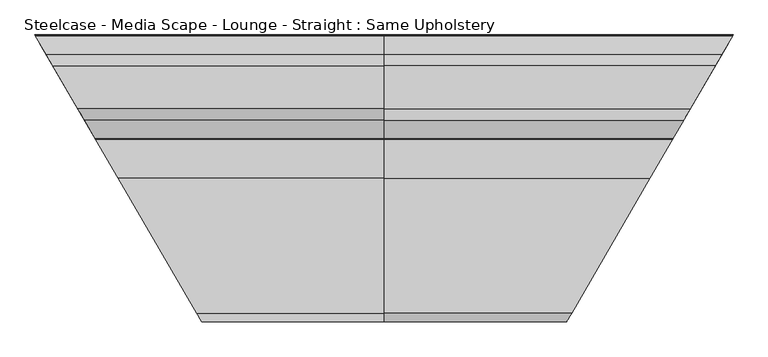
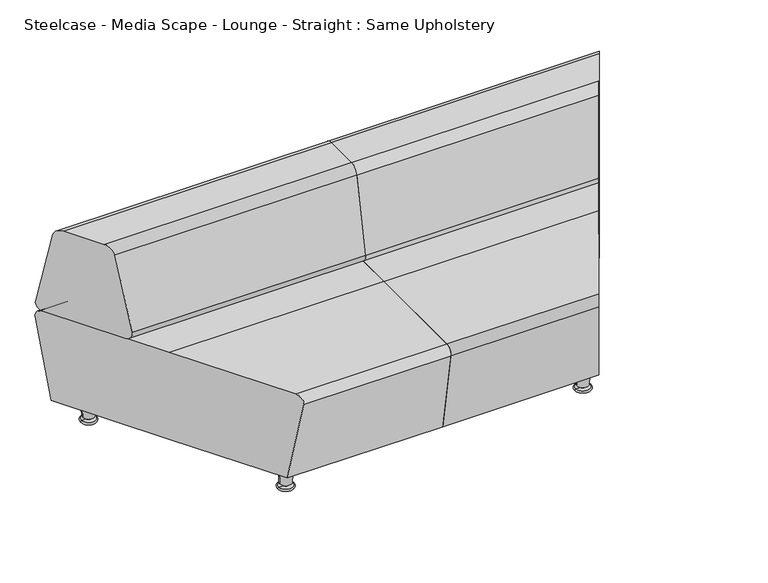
"""IFC4 building model written with IfcOpenShell, lengths in millimetres: furniture geometry, Steelcase - Media Scape - Lounge - Straight : Same Upholstery."""

from ifc_helpers import new_model, si_unit, point, frame, origin, place, context, project, spatial, polyline, circle_curve, ellipse_curve, trimmed, source, transform, mapped, element, save
from ifc_brep_helpers import plane_surface, cylinder_surface, revolved_surface, advanced_brep


def steelcase_media_scape_lounge_straight_same_upholstery_78731be7(model_context):
    return source(origin(), model_context, "Body", "AdvancedBrep", [
        advanced_brep(
        [(528.9638527, 744.618392, 735.1171206), (528.9638527, 619.0683436, 735.1171206), (528.9638527, 585.640659, 707.6422134), (528.9638527, 531.7822003, 434.7626426), (528.9638527, 556.7014693, 404.4443065), (528.9638527, 806.9852663, 404.4443065), (528.9638527, 831.9045354, 434.7626426), (528.9638527, 778.0460766, 707.6422134), (-452.3869175, 778.0460766, 707.6422134), (-432.9507329, 744.618392, 735.1171206), (-483.7023664, 831.9045354, 434.7626426), (-469.2133128, 806.9852663, 404.4443065), (-323.688364, 556.7014693, 404.4443065), (-309.1993104, 531.7822003, 434.7626426), (-340.5147593, 585.640659, 707.6422134), (-359.950944, 619.0683436, 735.1171206)],
        [
            (0, 1),
            (1, 2, circle_curve(frame((528.9638527, 619.0683436, 701.0445646), z_axis=(1.0, 0.0, 0.0), x_axis=(0.0, -1.0, 0.0)), 34.0725559)),
            (2, 3),
            (3, 4, circle_curve(frame((528.9638527, 556.7014693, 429.8443065), z_axis=(1.0, 0.0, 0.0), x_axis=(0.0, -1.0, 0.0)), 25.4)),
            (4, 5),
            (5, 6, circle_curve(frame((528.9638527, 806.9852663, 429.8443065), z_axis=(1.0, 0.0, 0.0), x_axis=(0.0, 1.0, 0.0)), 25.4)),
            (6, 7),
            (7, 0, circle_curve(frame((528.9638527, 744.618392, 701.0445646), z_axis=(1.0, 0.0, 0.0), x_axis=(0.0, 1.0, 0.0)), 34.0725559)),
            (7, 8),
            (8, 9, ellipse_curve(frame((-432.9507329, 744.618392, 701.0445646), z_axis=(0.8644905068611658, 0.5026491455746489, 0.0), x_axis=(-0.5026491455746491, 0.8644905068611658, 0.0)), 39.413453, 34.0725559)),
            (9, 0),
            (6, 10),
            (10, 8),
            (5, 11),
            (11, 10, ellipse_curve(frame((-469.2133128, 806.9852663, 429.8443065), z_axis=(0.8644905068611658, 0.5026491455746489, 0.0), x_axis=(-0.5026491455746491, 0.8644905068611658, 0.0)), 29.3814678, 25.4)),
            (4, 12),
            (12, 11),
            (3, 13),
            (13, 12, ellipse_curve(frame((-323.688364, 556.7014693, 429.8443065), z_axis=(0.8644905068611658, 0.5026491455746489, 0.0), x_axis=(-0.502649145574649, 0.8644905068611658, 0.0)), 29.3814678, 25.4)),
            (2, 14),
            (14, 13),
            (1, 15),
            (15, 14, ellipse_curve(frame((-359.950944, 619.0683436, 701.0445646), z_axis=(0.8644905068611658, 0.5026491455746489, 0.0), x_axis=(-0.502649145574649, 0.8644905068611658, 0.0)), 39.413453, 34.0725559)),
            (9, 15),
        ],
        [
            plane_surface(frame((528.9638527, 778.690948, 701.0445646), z_axis=(1.0, 0.0, 0.0), x_axis=(0.0, 0.0, 1.0))),
            cylinder_surface(frame((528.9638527, 744.618392, 701.0445646), z_axis=(-1.0, 0.0, 0.0), x_axis=(0.0, 1.0, 0.0)), 34.0725559),
            plane_surface(frame((-497.7585178, 778.0460766, 707.6422134), z_axis=(0.0, 0.9810735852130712, 0.19363527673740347), x_axis=(1.0, 0.0, 0.0))),
            cylinder_surface(frame((528.9638527, 806.9852663, 429.8443065), z_axis=(-1.0, 0.0, 0.0), x_axis=(0.0, 1.0, 0.0)), 25.4),
            plane_surface(frame((-497.7585178, 806.9852663, 404.4443065), z_axis=(0.0, 0.0, -1.0), x_axis=(1.0, 0.0, 0.0))),
            cylinder_surface(frame((528.9638527, 556.7014693, 429.8443065), z_axis=(-1.0, 0.0, 0.0), x_axis=(0.0, -1.0, 0.0)), 25.4),
            plane_surface(frame((-497.7585178, 531.7822003, 434.7626426), z_axis=(0.0, -0.9810735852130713, 0.1936352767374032), x_axis=(1.0, 0.0, 0.0))),
            cylinder_surface(frame((528.9638527, 619.0683436, 701.0445646), z_axis=(-1.0, 0.0, 0.0), x_axis=(0.0, -1.0, 0.0)), 34.0725559),
            plane_surface(frame((-497.7585178, 619.0683436, 735.1171206), z_axis=(0.0, 0.0, 1.0), x_axis=(1.0, 0.0, 0.0))),
            plane_surface(frame((22.6450752, -38.9465548, 744.9721396), z_axis=(-0.8644905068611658, -0.5026491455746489, 0.0), x_axis=(0.0, 0.0, -1.0))),
        ],
        [
            (0, [[1, 2, 3, 4, 5, 6, 7, 8]]),
            (1, [[-8, 9, 10, 11]]),
            (2, [[-7, 12, 13, -9]]),
            (3, [[-6, 14, 15, -12]]),
            (4, [[-5, 16, 17, -14]]),
            (5, [[-4, 18, 19, -16]]),
            (6, [[-3, 20, 21, -18]]),
            (7, [[-2, 22, 23, -20]]),
            (8, [[-1, -11, 24, -22]]),
            (9, [[-10, -13, -15, -17, -19, -21, -23, -24]]),
        ],
    ),
        advanced_brep(
        [(528.9638527, 416.9525328, 404.4443065), (528.9638527, 25.4465658, 404.4443065), (528.9638527, 0.4050887, 374.7917281), (528.9638527, 51.3770305, 74.6414242), (528.9638527, 416.9525328, 74.6414242), (528.9638527, 782.5280351, 74.6414242), (528.9638527, 833.4999769, 374.7917281), (528.9638527, 808.4584998, 404.4443065), (-242.4327771, 416.9525328, 404.4443065), (-14.7956449, 25.4465658, 404.4443065), (-0.2355347, 0.4050887, 374.7917281), (-29.8726479, 51.3770305, 74.6414242), (-242.4327771, 416.9525328, 74.6414242), (-454.9929064, 782.5280351, 74.6414242), (-484.6300196, 833.4999769, 374.7917281), (-470.0699093, 808.4584998, 404.4443065)],
        [
            (0, 1),
            (1, 2, circle_curve(frame((528.9638527, 25.4465658, 379.0443065), z_axis=(1.0, 0.0, 0.0), x_axis=(0.0, -1.0, 0.0)), 25.4)),
            (2, 3),
            (3, 4),
            (4, 5),
            (5, 6),
            (6, 7, circle_curve(frame((528.9638527, 808.4584998, 379.0443065), z_axis=(1.0, 0.0, 0.0), x_axis=(0.0, 1.0, 0.0)), 25.4)),
            (7, 0),
            (0, 8),
            (8, 9),
            (9, 1),
            (9, 10, ellipse_curve(frame((-14.7956449, 25.4465658, 379.0443065), z_axis=(0.8644905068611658, 0.5026491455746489, 0.0), x_axis=(0.502649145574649, -0.8644905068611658, 0.0)), 29.3814678, 25.4)),
            (10, 2),
            (10, 11),
            (11, 3),
            (11, 12),
            (12, 4),
            (12, 13),
            (13, 5),
            (13, 14),
            (14, 6),
            (14, 15, ellipse_curve(frame((-470.0699093, 808.4584998, 379.0443065), z_axis=(0.8644905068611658, 0.5026491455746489, 0.0), x_axis=(0.502649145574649, -0.8644905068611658, 0.0)), 29.3814678, 25.4)),
            (15, 7),
            (15, 8),
        ],
        [
            plane_surface(frame((528.9638527, -57.5722485, 404.4443065), z_axis=(1.0, 0.0, 0.0), x_axis=(0.0, -1.0, 0.0))),
            plane_surface(frame((528.9638527, 416.9525328, 404.4443065), z_axis=(0.0, 0.0, 1.0), x_axis=(-1.0, 0.0, 0.0))),
            cylinder_surface(frame((-497.7585178, 25.4465658, 379.0443065), z_axis=(1.0, 0.0, 0.0), x_axis=(0.0, -1.0, 0.0)), 25.4),
            plane_surface(frame((528.9638527, 0.4050887, 374.7917281), z_axis=(0.0, -0.9858849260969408, -0.16742434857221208), x_axis=(-1.0, 0.0, 0.0))),
            plane_surface(frame((528.9638527, 51.3770305, 74.6414242), z_axis=(0.0, 0.0, -1.0), x_axis=(-1.0, 0.0, 0.0))),
            plane_surface(frame((528.9638527, 416.9525328, 74.6414242), z_axis=(0.0, 0.0, -1.0), x_axis=(-1.0, 0.0, 0.0))),
            plane_surface(frame((528.9638527, 782.5280351, 74.6414242), z_axis=(0.0, 0.9858849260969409, -0.1674243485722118), x_axis=(-1.0, 0.0, 0.0))),
            cylinder_surface(frame((-497.7585178, 808.4584998, 379.0443065), z_axis=(1.0, 0.0, 0.0), x_axis=(0.0, 1.0, 0.0)), 25.4),
            plane_surface(frame((528.9638527, 808.4584998, 404.4443065), z_axis=(0.0, 0.0, 1.0), x_axis=(-1.0, 0.0, 0.0))),
            plane_surface(frame((22.6450752, -38.9465548, 744.9721396), z_axis=(-0.8644905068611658, -0.5026491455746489, 0.0), x_axis=(0.0, 0.0, -1.0))),
        ],
        [
            (0, [[1, 2, 3, 4, 5, 6, 7, 8]]),
            (1, [[-1, 9, 10, 11]]),
            (2, [[-2, -11, 12, 13]]),
            (3, [[-3, -13, 14, 15]]),
            (4, [[-4, -15, 16, 17]]),
            (5, [[-5, -17, 18, 19]]),
            (6, [[-6, -19, 20, 21]]),
            (7, [[-7, -21, 22, 23]]),
            (8, [[-8, -23, 24, -9]]),
            (9, [[-10, -24, -22, -20, -18, -16, -14, -12]]),
        ],
    ),
        advanced_brep(
        [(528.9638527, 416.9525328, 404.4443065), (528.9638527, 808.4584998, 404.4443065), (528.9638527, 833.4999769, 374.7917281), (528.9638527, 782.5280351, 74.6414242), (528.9638527, 416.9525328, 74.6414242), (528.9638527, 51.3770305, 74.6414242), (528.9638527, 0.4050887, 374.7917281), (528.9638527, 25.4465658, 404.4443065), (1301.6333208, 416.9525328, 404.4443065), (1528.798605, 808.4584998, 404.4443065), (1543.328535, 833.4999769, 374.7917281), (1513.7528538, 782.5280351, 74.6414242), (1301.6333208, 416.9525328, 74.6414242), (1089.5137878, 51.3770305, 74.6414242), (1059.9381066, 0.4050887, 374.7917281), (1074.4680366, 25.4465658, 404.4443065)],
        [
            (0, 1),
            (1, 2, circle_curve(frame((528.9638527, 808.4584998, 379.0443065), z_axis=(-1.0, 0.0, 0.0), x_axis=(0.0, 1.0, 0.0)), 25.4)),
            (2, 3),
            (3, 4),
            (4, 5),
            (5, 6),
            (6, 7, circle_curve(frame((528.9638527, 25.4465658, 379.0443065), z_axis=(-1.0, 0.0, 0.0), x_axis=(0.0, -1.0, 0.0)), 25.4)),
            (7, 0),
            (0, 8),
            (8, 9),
            (9, 1),
            (9, 10, ellipse_curve(frame((1528.798605, 808.4584998, 379.0443065), z_axis=(-0.8649431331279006, 0.5018698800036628, 0.0), x_axis=(-0.5018698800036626, -0.8649431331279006, 0.0)), 29.3660924, 25.4)),
            (10, 2),
            (10, 11),
            (11, 3),
            (11, 12),
            (12, 4),
            (12, 13),
            (13, 5),
            (13, 14),
            (14, 6),
            (14, 15, ellipse_curve(frame((1074.4680366, 25.4465658, 379.0443065), z_axis=(-0.8649431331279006, 0.5018698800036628, 0.0), x_axis=(-0.5018698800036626, -0.8649431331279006, 0.0)), 29.3660924, 25.4)),
            (15, 7),
            (15, 8),
        ],
        [
            plane_surface(frame((528.9638527, 891.4773142, 404.4443065), z_axis=(-1.0, 0.0, 0.0), x_axis=(0.0, 1.0, 0.0))),
            plane_surface(frame((528.9638527, 416.9525328, 404.4443065), z_axis=(0.0, 0.0, 1.0), x_axis=(1.0, 0.0, 0.0))),
            cylinder_surface(frame((1555.6862231, 808.4584998, 379.0443065), z_axis=(-1.0, 0.0, 0.0), x_axis=(0.0, 1.0, 0.0)), 25.4),
            plane_surface(frame((528.9638527, 833.4999769, 374.7917281), z_axis=(0.0, 0.9858849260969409, -0.1674243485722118), x_axis=(1.0, 0.0, 0.0))),
            plane_surface(frame((528.9638527, 782.5280351, 74.6414242), z_axis=(0.0, 0.0, -1.0), x_axis=(1.0, 0.0, 0.0))),
            plane_surface(frame((528.9638527, 416.9525328, 74.6414242), z_axis=(0.0, 0.0, -1.0), x_axis=(1.0, 0.0, 0.0))),
            plane_surface(frame((528.9638527, 51.3770305, 74.6414242), z_axis=(0.0, -0.9858849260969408, -0.16742434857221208), x_axis=(1.0, 0.0, 0.0))),
            cylinder_surface(frame((1555.6862231, 25.4465658, 379.0443065), z_axis=(-1.0, 0.0, 0.0), x_axis=(0.0, -1.0, 0.0)), 25.4),
            plane_surface(frame((528.9638527, 25.4465658, 404.4443065), z_axis=(0.0, 0.0, 1.0), x_axis=(1.0, 0.0, 0.0))),
            plane_surface(frame((1544.0895768, 834.8115876, 744.9721396), z_axis=(0.8649431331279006, -0.5018698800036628, 0.0), x_axis=(0.0, 0.0, -1.0))),
        ],
        [
            (0, [[1, 2, 3, 4, 5, 6, 7, 8]]),
            (1, [[-1, 9, 10, 11]]),
            (2, [[-2, -11, 12, 13]]),
            (3, [[-3, -13, 14, 15]]),
            (4, [[-4, -15, 16, 17]]),
            (5, [[-5, -17, 18, 19]]),
            (6, [[-6, -19, 20, 21]]),
            (7, [[-7, -21, 22, 23]]),
            (8, [[-8, -23, 24, -9]]),
            (9, [[-10, -24, -22, -20, -18, -16, -14, -12]]),
        ],
    ),
        advanced_brep(
        [(528.9638527, 744.618392, 735.1171206), (528.9638527, 778.0460766, 707.6422134), (528.9638527, 831.9045354, 434.7626426), (528.9638527, 806.9852663, 404.4443065), (528.9638527, 556.7014693, 404.4443065), (528.9638527, 531.7822003, 434.7626426), (528.9638527, 585.640659, 707.6422134), (528.9638527, 619.0683436, 735.1171206), (1418.9078951, 619.0683436, 735.1171206), (1491.7563695, 744.618392, 735.1171206), (1399.5119979, 585.640659, 707.6422134), (1368.26146, 531.7822003, 434.7626426), (1382.7204806, 556.7014693, 404.4443065), (1527.9437841, 806.9852663, 404.4443065), (1542.4028047, 831.9045354, 434.7626426), (1511.1522667, 778.0460766, 707.6422134)],
        [
            (0, 1, circle_curve(frame((528.9638527, 744.618392, 701.0445646), z_axis=(-1.0, 0.0, 0.0), x_axis=(0.0, 1.0, 0.0)), 34.0725559)),
            (1, 2),
            (2, 3, circle_curve(frame((528.9638527, 806.9852663, 429.8443065), z_axis=(-1.0, 0.0, 0.0), x_axis=(0.0, 1.0, 0.0)), 25.4)),
            (3, 4),
            (4, 5, circle_curve(frame((528.9638527, 556.7014693, 429.8443065), z_axis=(-1.0, 0.0, 0.0), x_axis=(0.0, -1.0, 0.0)), 25.4)),
            (5, 6),
            (6, 7, circle_curve(frame((528.9638527, 619.0683436, 701.0445646), z_axis=(-1.0, 0.0, 0.0), x_axis=(0.0, -1.0, 0.0)), 34.0725559)),
            (7, 0),
            (7, 8),
            (8, 9),
            (9, 0),
            (6, 10),
            (10, 8, ellipse_curve(frame((1418.9078951, 619.0683436, 701.0445646), z_axis=(-0.8649431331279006, 0.5018698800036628, 0.0), x_axis=(0.5018698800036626, 0.8649431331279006, 0.0)), 39.3928279, 34.0725559)),
            (5, 11),
            (11, 10),
            (4, 12),
            (12, 11, ellipse_curve(frame((1382.7204806, 556.7014693, 429.8443065), z_axis=(-0.8649431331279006, 0.5018698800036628, 0.0), x_axis=(0.5018698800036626, 0.8649431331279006, 0.0)), 29.3660924, 25.4)),
            (3, 13),
            (13, 12),
            (2, 14),
            (14, 13, ellipse_curve(frame((1527.9437841, 806.9852663, 429.8443065), z_axis=(-0.8649431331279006, 0.5018698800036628, 0.0), x_axis=(0.5018698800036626, 0.8649431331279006, 0.0)), 29.3660924, 25.4)),
            (1, 15),
            (15, 14),
            (9, 15, ellipse_curve(frame((1491.7563695, 744.618392, 701.0445646), z_axis=(-0.8649431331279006, 0.5018698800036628, 0.0), x_axis=(0.5018698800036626, 0.8649431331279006, 0.0)), 39.3928279, 34.0725559)),
        ],
        [
            plane_surface(frame((528.9638527, 567.2050656, 735.1171206), z_axis=(-1.0, 0.0, 0.0), x_axis=(0.0, 1.0, 0.0))),
            plane_surface(frame((1555.6862231, 744.618392, 735.1171206), z_axis=(0.0, 0.0, 1.0), x_axis=(-1.0, 0.0, 0.0))),
            cylinder_surface(frame((528.9638527, 619.0683436, 701.0445646), z_axis=(1.0, 0.0, 0.0), x_axis=(0.0, -1.0, 0.0)), 34.0725559),
            plane_surface(frame((1555.6862231, 585.640659, 707.6422134), z_axis=(0.0, -0.9810735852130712, 0.19363527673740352), x_axis=(-1.0, 0.0, 0.0))),
            cylinder_surface(frame((528.9638527, 556.7014693, 429.8443065), z_axis=(1.0, 0.0, 0.0), x_axis=(0.0, -1.0, 0.0)), 25.4),
            plane_surface(frame((1555.6862231, 556.7014693, 404.4443065), z_axis=(0.0, 0.0, -1.0), x_axis=(-1.0, 0.0, 0.0))),
            cylinder_surface(frame((528.9638527, 806.9852663, 429.8443065), z_axis=(1.0, 0.0, 0.0), x_axis=(0.0, 1.0, 0.0)), 25.4),
            plane_surface(frame((1555.6862231, 831.9045354, 434.7626426), z_axis=(0.0, 0.9810735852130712, 0.19363527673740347), x_axis=(-1.0, 0.0, 0.0))),
            cylinder_surface(frame((528.9638527, 744.618392, 701.0445646), z_axis=(1.0, 0.0, 0.0), x_axis=(0.0, 1.0, 0.0)), 34.0725559),
            plane_surface(frame((1544.0895768, 834.8115876, 744.9721396), z_axis=(0.8649431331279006, -0.5018698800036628, 0.0), x_axis=(0.0, 0.0, -1.0))),
        ],
        [
            (0, [[1, 2, 3, 4, 5, 6, 7, 8]]),
            (1, [[-8, 9, 10, 11]]),
            (2, [[-7, 12, 13, -9]]),
            (3, [[-6, 14, 15, -12]]),
            (4, [[-5, 16, 17, -14]]),
            (5, [[-4, 18, 19, -16]]),
            (6, [[-3, 20, 21, -18]]),
            (7, [[-2, 22, 23, -20]]),
            (8, [[-1, -11, 24, -22]]),
            (9, [[-10, -13, -15, -17, -19, -21, -23, -24]]),
        ],
    ),
        advanced_brep(
        [(1415.6593492, 727.0057274, 74.1561731), (1439.4462694, 727.0057274, 74.1561731), (1391.8724291, 727.0057274, 74.1561731), (1389.605707, 727.0057274, 0.0), (1441.7129915, 727.0057274, 0.0), (1415.6593492, 727.0057274, 0.0), (1389.605707, 727.0057274, 6.3788302), (1441.7129915, 727.0057274, 6.3788302), (1406.1343492, 727.0057274, 6.3788302), (1425.1843492, 727.0057274, 6.3788302), (1406.1343492, 727.0057274, 17.057519), (1425.1843492, 727.0057274, 17.057519), (1394.704233, 727.0057274, 17.057519), (1436.6144655, 727.0057274, 17.057519)],
        [
            (0, 1),
            (1, 2, circle_curve(frame((1415.6593492, 727.0057274, 74.1561731), z_axis=(0.0, 0.0, 1.0), x_axis=(1.0, 0.0, 0.0)), 23.7869202)),
            (2, 0),
            (2, 1, circle_curve(frame((1415.6593492, 727.0057274, 74.1561731), z_axis=(0.0, 0.0, 1.0), x_axis=(1.0, 0.0, 0.0)), 23.7869202)),
            (3, 4, circle_curve(frame((1415.6593492, 727.0057274, 0.0), z_axis=(0.0, 0.0, -1.0), x_axis=(1.0, 0.0, 0.0)), 26.0536423)),
            (4, 5),
            (5, 3),
            (4, 3, circle_curve(frame((1415.6593492, 727.0057274, 0.0), z_axis=(0.0, 0.0, -1.0), x_axis=(1.0, 0.0, 0.0)), 26.0536423)),
            (3, 6, circle_curve(frame((1389.605707, 727.0057274, 3.1894151), z_axis=(0.0, 1.0, 0.0), x_axis=(-1.0, 0.0, 0.0)), 3.1894151)),
            (6, 7, circle_curve(frame((1415.6593492, 727.0057274, 6.3788302), z_axis=(0.0, 0.0, -1.0), x_axis=(1.0, 0.0, 0.0)), 26.0536423)),
            (7, 4, circle_curve(frame((1441.7129915, 727.0057274, 3.1894151), z_axis=(0.0, 1.0, 0.0), x_axis=(1.0, 0.0, 0.0)), 3.1894151)),
            (7, 6, circle_curve(frame((1415.6593492, 727.0057274, 6.3788302), z_axis=(0.0, 0.0, -1.0), x_axis=(1.0, 0.0, 0.0)), 26.0536423)),
            (6, 8),
            (8, 9, circle_curve(frame((1415.6593492, 727.0057274, 6.3788302), z_axis=(0.0, 0.0, -1.0), x_axis=(1.0, 0.0, 0.0)), 9.525)),
            (9, 7),
            (9, 8, circle_curve(frame((1415.6593492, 727.0057274, 6.3788302), z_axis=(0.0, 0.0, -1.0), x_axis=(1.0, 0.0, 0.0)), 9.525)),
            (8, 10),
            (10, 11, circle_curve(frame((1415.6593492, 727.0057274, 17.057519), z_axis=(0.0, 0.0, -1.0), x_axis=(1.0, 0.0, 0.0)), 9.525)),
            (11, 9),
            (11, 10, circle_curve(frame((1415.6593492, 727.0057274, 17.057519), z_axis=(0.0, 0.0, -1.0), x_axis=(1.0, 0.0, 0.0)), 9.525)),
            (10, 12),
            (12, 13, circle_curve(frame((1415.6593492, 727.0057274, 17.057519), z_axis=(0.0, 0.0, -1.0), x_axis=(1.0, 0.0, 0.0)), 20.9551163)),
            (13, 11),
            (13, 12, circle_curve(frame((1415.6593492, 727.0057274, 17.057519), z_axis=(0.0, 0.0, -1.0), x_axis=(1.0, 0.0, 0.0)), 20.9551163)),
            (1, 13),
            (12, 2),
        ],
        [
            plane_surface(frame((1415.6593492, 727.0057274, 74.1561731), z_axis=(0.0, 0.0, 1.0), x_axis=(1.0, 0.0, 0.0))),
            plane_surface(frame((1415.6593492, 727.0057274, 0.0), z_axis=(0.0, 0.0, -1.0), x_axis=(1.0, 0.0, 0.0))),
            revolved_surface(trimmed(ellipse_curve(frame((1441.7129915, 727.0057274, 3.1894151), z_axis=(0.0, -1.0, 0.0), x_axis=(1.0, 0.0, 0.0)), 3.1894151, 3.1894151), [point((1441.7129915, 727.0057274, 0.0))], [point((1441.7129915, 727.0057274, 6.3788302))], True, "CARTESIAN"), (1415.6593492, 727.0057274, 61.4561731), (0.0, 0.0, 1.0)),
            plane_surface(frame((1415.6593492, 727.0057274, 6.3788302), z_axis=(0.0, 0.0, 1.0), x_axis=(1.0, 0.0, 0.0))),
            cylinder_surface(frame((1415.6593492, 727.0057274, 61.4561731), z_axis=(0.0, 0.0, 1.0), x_axis=(1.0, 0.0, 0.0)), 9.525),
            plane_surface(frame((1415.6593492, 727.0057274, 17.057519), z_axis=(0.0, 0.0, -1.0), x_axis=(1.0, 0.0, 0.0))),
            revolved_surface(polyline([(1436.6144655, 727.0057274, 17.057519), (1439.4462694, 727.0057274, 74.1561731)]), (1415.6593492, 727.0057274, 61.4561731), (0.0, 0.0, 1.0)),
        ],
        [
            (0, [[1, 2, 3]]),
            (0, [[-1, -3, 4]]),
            (1, [[5, 6, 7]]),
            (1, [[-6, 8, -7]]),
            (2, [[-5, 9, 10, 11]]),
            (2, [[-8, -11, 12, -9]]),
            (3, [[-10, 13, 14, 15]]),
            (3, [[-12, -15, 16, -13]]),
            (4, [[-14, 17, 18, 19]]),
            (4, [[-16, -19, 20, -17]]),
            (5, [[-18, 21, 22, 23]]),
            (5, [[-20, -23, 24, -21]]),
            (6, [[-2, 25, -22, 26]]),
            (6, [[-4, -26, -24, -25]]),
        ],
    ),
        advanced_brep(
        [(1064.6697268, 106.8143681, 74.1561731), (1088.4566469, 106.8143681, 74.1561731), (1040.8828066, 106.8143681, 74.1561731), (1038.6160845, 106.8143681, 0.0), (1090.723369, 106.8143681, 0.0), (1064.6697268, 106.8143681, 0.0), (1038.6160845, 106.8143681, 6.3788302), (1090.723369, 106.8143681, 6.3788302), (1055.1447268, 106.8143681, 6.3788302), (1074.1947268, 106.8143681, 6.3788302), (1055.1447268, 106.8143681, 17.057519), (1074.1947268, 106.8143681, 17.057519), (1043.7146105, 106.8143681, 17.057519), (1085.624843, 106.8143681, 17.057519)],
        [
            (0, 1),
            (1, 2, circle_curve(frame((1064.6697268, 106.8143681, 74.1561731), z_axis=(0.0, 0.0, 1.0), x_axis=(1.0, 0.0, 0.0)), 23.7869202)),
            (2, 0),
            (2, 1, circle_curve(frame((1064.6697268, 106.8143681, 74.1561731), z_axis=(0.0, 0.0, 1.0), x_axis=(1.0, 0.0, 0.0)), 23.7869202)),
            (3, 4, circle_curve(frame((1064.6697268, 106.8143681, 0.0), z_axis=(0.0, 0.0, -1.0), x_axis=(1.0, 0.0, 0.0)), 26.0536423)),
            (4, 5),
            (5, 3),
            (4, 3, circle_curve(frame((1064.6697268, 106.8143681, 0.0), z_axis=(0.0, 0.0, -1.0), x_axis=(1.0, 0.0, 0.0)), 26.0536423)),
            (3, 6, circle_curve(frame((1038.6160845, 106.8143681, 3.1894151), z_axis=(0.0, 1.0, 0.0), x_axis=(-1.0, 0.0, 0.0)), 3.1894151)),
            (6, 7, circle_curve(frame((1064.6697268, 106.8143681, 6.3788302), z_axis=(0.0, 0.0, -1.0), x_axis=(1.0, 0.0, 0.0)), 26.0536423)),
            (7, 4, circle_curve(frame((1090.723369, 106.8143681, 3.1894151), z_axis=(0.0, 1.0, 0.0), x_axis=(1.0, 0.0, 0.0)), 3.1894151)),
            (7, 6, circle_curve(frame((1064.6697268, 106.8143681, 6.3788302), z_axis=(0.0, 0.0, -1.0), x_axis=(1.0, 0.0, 0.0)), 26.0536423)),
            (6, 8),
            (8, 9, circle_curve(frame((1064.6697268, 106.8143681, 6.3788302), z_axis=(0.0, 0.0, -1.0), x_axis=(1.0, 0.0, 0.0)), 9.525)),
            (9, 7),
            (9, 8, circle_curve(frame((1064.6697268, 106.8143681, 6.3788302), z_axis=(0.0, 0.0, -1.0), x_axis=(1.0, 0.0, 0.0)), 9.525)),
            (8, 10),
            (10, 11, circle_curve(frame((1064.6697268, 106.8143681, 17.057519), z_axis=(0.0, 0.0, -1.0), x_axis=(1.0, 0.0, 0.0)), 9.525)),
            (11, 9),
            (11, 10, circle_curve(frame((1064.6697268, 106.8143681, 17.057519), z_axis=(0.0, 0.0, -1.0), x_axis=(1.0, 0.0, 0.0)), 9.525)),
            (10, 12),
            (12, 13, circle_curve(frame((1064.6697268, 106.8143681, 17.057519), z_axis=(0.0, 0.0, -1.0), x_axis=(1.0, 0.0, 0.0)), 20.9551163)),
            (13, 11),
            (13, 12, circle_curve(frame((1064.6697268, 106.8143681, 17.057519), z_axis=(0.0, 0.0, -1.0), x_axis=(1.0, 0.0, 0.0)), 20.9551163)),
            (1, 13),
            (12, 2),
        ],
        [
            plane_surface(frame((1064.6697268, 106.8143681, 74.1561731), z_axis=(0.0, 0.0, 1.0), x_axis=(1.0, 0.0, 0.0))),
            plane_surface(frame((1064.6697268, 106.8143681, 0.0), z_axis=(0.0, 0.0, -1.0), x_axis=(1.0, 0.0, 0.0))),
            revolved_surface(trimmed(ellipse_curve(frame((1090.723369, 106.8143681, 3.1894151), z_axis=(0.0, -1.0, 0.0), x_axis=(1.0, 0.0, 0.0)), 3.1894151, 3.1894151), [point((1090.723369, 106.8143681, 0.0))], [point((1090.723369, 106.8143681, 6.3788302))], True, "CARTESIAN"), (1064.6697268, 106.8143681, 61.4561731), (0.0, 0.0, 1.0)),
            plane_surface(frame((1064.6697268, 106.8143681, 6.3788302), z_axis=(0.0, 0.0, 1.0), x_axis=(1.0, 0.0, 0.0))),
            cylinder_surface(frame((1064.6697268, 106.8143681, 61.4561731), z_axis=(0.0, 0.0, 1.0), x_axis=(1.0, 0.0, 0.0)), 9.525),
            plane_surface(frame((1064.6697268, 106.8143681, 17.057519), z_axis=(0.0, 0.0, -1.0), x_axis=(1.0, 0.0, 0.0))),
            revolved_surface(polyline([(1085.624843, 106.8143681, 17.057519), (1088.4566469, 106.8143681, 74.1561731)]), (1064.6697268, 106.8143681, 61.4561731), (0.0, 0.0, 1.0)),
        ],
        [
            (0, [[1, 2, 3]]),
            (0, [[-1, -3, 4]]),
            (1, [[5, 6, 7]]),
            (1, [[-6, 8, -7]]),
            (2, [[-5, 9, 10, 11]]),
            (2, [[-8, -11, 12, -9]]),
            (3, [[-10, 13, 14, 15]]),
            (3, [[-12, -15, 16, -13]]),
            (4, [[-14, 17, 18, 19]]),
            (4, [[-16, -19, 20, -17]]),
            (5, [[-18, 21, 22, 23]]),
            (5, [[-20, -23, 24, -21]]),
            (6, [[-2, 25, -22, 26]]),
            (6, [[-4, -26, -24, -25]]),
        ],
    ),
        advanced_brep(
        [(-3.0976561, 106.8143681, 74.1561731), (20.6892641, 106.8143681, 74.1561731), (-26.8845762, 106.8143681, 74.1561731), (-29.1512983, 106.8143681, 0.0), (22.9559862, 106.8143681, 0.0), (-3.0976561, 106.8143681, 0.0), (-29.1512983, 106.8143681, 6.3788302), (22.9559862, 106.8143681, 6.3788302), (-12.6226561, 106.8143681, 6.3788302), (6.4273439, 106.8143681, 6.3788302), (-12.6226561, 106.8143681, 17.057519), (6.4273439, 106.8143681, 17.057519), (-24.0527723, 106.8143681, 17.057519), (17.8574602, 106.8143681, 17.057519)],
        [
            (0, 1),
            (1, 2, circle_curve(frame((-3.0976561, 106.8143681, 74.1561731), z_axis=(0.0, 0.0, 1.0), x_axis=(1.0, 0.0, 0.0)), 23.7869202)),
            (2, 0),
            (2, 1, circle_curve(frame((-3.0976561, 106.8143681, 74.1561731), z_axis=(0.0, 0.0, 1.0), x_axis=(1.0, 0.0, 0.0)), 23.7869202)),
            (3, 4, circle_curve(frame((-3.0976561, 106.8143681, 0.0), z_axis=(0.0, 0.0, -1.0), x_axis=(1.0, 0.0, 0.0)), 26.0536423)),
            (4, 5),
            (5, 3),
            (4, 3, circle_curve(frame((-3.0976561, 106.8143681, 0.0), z_axis=(0.0, 0.0, -1.0), x_axis=(1.0, 0.0, 0.0)), 26.0536423)),
            (3, 6, circle_curve(frame((-29.1512983, 106.8143681, 3.1894151), z_axis=(0.0, 1.0, 0.0), x_axis=(-1.0, 0.0, 0.0)), 3.1894151)),
            (6, 7, circle_curve(frame((-3.0976561, 106.8143681, 6.3788302), z_axis=(0.0, 0.0, -1.0), x_axis=(1.0, 0.0, 0.0)), 26.0536423)),
            (7, 4, circle_curve(frame((22.9559862, 106.8143681, 3.1894151), z_axis=(0.0, 1.0, 0.0), x_axis=(1.0, 0.0, 0.0)), 3.1894151)),
            (7, 6, circle_curve(frame((-3.0976561, 106.8143681, 6.3788302), z_axis=(0.0, 0.0, -1.0), x_axis=(1.0, 0.0, 0.0)), 26.0536423)),
            (6, 8),
            (8, 9, circle_curve(frame((-3.0976561, 106.8143681, 6.3788302), z_axis=(0.0, 0.0, -1.0), x_axis=(1.0, 0.0, 0.0)), 9.525)),
            (9, 7),
            (9, 8, circle_curve(frame((-3.0976561, 106.8143681, 6.3788302), z_axis=(0.0, 0.0, -1.0), x_axis=(1.0, 0.0, 0.0)), 9.525)),
            (8, 10),
            (10, 11, circle_curve(frame((-3.0976561, 106.8143681, 17.057519), z_axis=(0.0, 0.0, -1.0), x_axis=(1.0, 0.0, 0.0)), 9.525)),
            (11, 9),
            (11, 10, circle_curve(frame((-3.0976561, 106.8143681, 17.057519), z_axis=(0.0, 0.0, -1.0), x_axis=(1.0, 0.0, 0.0)), 9.525)),
            (10, 12),
            (12, 13, circle_curve(frame((-3.0976561, 106.8143681, 17.057519), z_axis=(0.0, 0.0, -1.0), x_axis=(1.0, 0.0, 0.0)), 20.9551163)),
            (13, 11),
            (13, 12, circle_curve(frame((-3.0976561, 106.8143681, 17.057519), z_axis=(0.0, 0.0, -1.0), x_axis=(1.0, 0.0, 0.0)), 20.9551163)),
            (1, 13),
            (12, 2),
        ],
        [
            plane_surface(frame((-3.0976561, 106.8143681, 74.1561731), z_axis=(0.0, 0.0, 1.0), x_axis=(1.0, 0.0, 0.0))),
            plane_surface(frame((-3.0976561, 106.8143681, 0.0), z_axis=(0.0, 0.0, -1.0), x_axis=(1.0, 0.0, 0.0))),
            revolved_surface(trimmed(ellipse_curve(frame((22.9559862, 106.8143681, 3.1894151), z_axis=(0.0, -1.0, 0.0), x_axis=(1.0, 0.0, 0.0)), 3.1894151, 3.1894151), [point((22.9559862, 106.8143681, 0.0))], [point((22.9559862, 106.8143681, 6.3788302))], True, "CARTESIAN"), (-3.0976561, 106.8143681, 61.4561731), (0.0, 0.0, 1.0)),
            plane_surface(frame((-3.0976561, 106.8143681, 6.3788302), z_axis=(0.0, 0.0, 1.0), x_axis=(1.0, 0.0, 0.0))),
            cylinder_surface(frame((-3.0976561, 106.8143681, 61.4561731), z_axis=(0.0, 0.0, 1.0), x_axis=(1.0, 0.0, 0.0)), 9.525),
            plane_surface(frame((-3.0976561, 106.8143681, 17.057519), z_axis=(0.0, 0.0, -1.0), x_axis=(1.0, 0.0, 0.0))),
            revolved_surface(polyline([(17.8574602, 106.8143681, 17.057519), (20.6892641, 106.8143681, 74.1561731)]), (-3.0976561, 106.8143681, 61.4561731), (0.0, 0.0, 1.0)),
        ],
        [
            (0, [[1, 2, 3]]),
            (0, [[-1, -3, 4]]),
            (1, [[5, 6, 7]]),
            (1, [[-6, 8, -7]]),
            (2, [[-5, 9, 10, 11]]),
            (2, [[-8, -11, 12, -9]]),
            (3, [[-10, 13, 14, 15]]),
            (3, [[-12, -15, 16, -13]]),
            (4, [[-14, 17, 18, 19]]),
            (4, [[-16, -19, 20, -17]]),
            (5, [[-18, 21, 22, 23]]),
            (5, [[-20, -23, 24, -21]]),
            (6, [[-2, 25, -22, 26]]),
            (6, [[-4, -26, -24, -25]]),
        ],
    ),
        advanced_brep(
        [(-353.6250975, 727.0057274, 74.1561731), (-329.8381773, 727.0057274, 74.1561731), (-377.4120176, 727.0057274, 74.1561731), (-379.6787397, 727.0057274, 0.0), (-327.5714552, 727.0057274, 0.0), (-353.6250975, 727.0057274, 0.0), (-379.6787397, 727.0057274, 6.3788302), (-327.5714552, 727.0057274, 6.3788302), (-363.1500975, 727.0057274, 6.3788302), (-344.1000975, 727.0057274, 6.3788302), (-363.1500975, 727.0057274, 17.057519), (-344.1000975, 727.0057274, 17.057519), (-374.5802137, 727.0057274, 17.057519), (-332.6699812, 727.0057274, 17.057519)],
        [
            (0, 1),
            (1, 2, circle_curve(frame((-353.6250975, 727.0057274, 74.1561731), z_axis=(0.0, 0.0, 1.0), x_axis=(1.0, 0.0, 0.0)), 23.7869202)),
            (2, 0),
            (2, 1, circle_curve(frame((-353.6250975, 727.0057274, 74.1561731), z_axis=(0.0, 0.0, 1.0), x_axis=(1.0, 0.0, 0.0)), 23.7869202)),
            (3, 4, circle_curve(frame((-353.6250975, 727.0057274, 0.0), z_axis=(0.0, 0.0, -1.0), x_axis=(1.0, 0.0, 0.0)), 26.0536423)),
            (4, 5),
            (5, 3),
            (4, 3, circle_curve(frame((-353.6250975, 727.0057274, 0.0), z_axis=(0.0, 0.0, -1.0), x_axis=(1.0, 0.0, 0.0)), 26.0536423)),
            (3, 6, circle_curve(frame((-379.6787397, 727.0057274, 3.1894151), z_axis=(0.0, 1.0, 0.0), x_axis=(-1.0, 0.0, 0.0)), 3.1894151)),
            (6, 7, circle_curve(frame((-353.6250975, 727.0057274, 6.3788302), z_axis=(0.0, 0.0, -1.0), x_axis=(1.0, 0.0, 0.0)), 26.0536423)),
            (7, 4, circle_curve(frame((-327.5714552, 727.0057274, 3.1894151), z_axis=(0.0, 1.0, 0.0), x_axis=(1.0, 0.0, 0.0)), 3.1894151)),
            (7, 6, circle_curve(frame((-353.6250975, 727.0057274, 6.3788302), z_axis=(0.0, 0.0, -1.0), x_axis=(1.0, 0.0, 0.0)), 26.0536423)),
            (6, 8),
            (8, 9, circle_curve(frame((-353.6250975, 727.0057274, 6.3788302), z_axis=(0.0, 0.0, -1.0), x_axis=(1.0, 0.0, 0.0)), 9.525)),
            (9, 7),
            (9, 8, circle_curve(frame((-353.6250975, 727.0057274, 6.3788302), z_axis=(0.0, 0.0, -1.0), x_axis=(1.0, 0.0, 0.0)), 9.525)),
            (8, 10),
            (10, 11, circle_curve(frame((-353.6250975, 727.0057274, 17.057519), z_axis=(0.0, 0.0, -1.0), x_axis=(1.0, 0.0, 0.0)), 9.525)),
            (11, 9),
            (11, 10, circle_curve(frame((-353.6250975, 727.0057274, 17.057519), z_axis=(0.0, 0.0, -1.0), x_axis=(1.0, 0.0, 0.0)), 9.525)),
            (10, 12),
            (12, 13, circle_curve(frame((-353.6250975, 727.0057274, 17.057519), z_axis=(0.0, 0.0, -1.0), x_axis=(1.0, 0.0, 0.0)), 20.9551163)),
            (13, 11),
            (13, 12, circle_curve(frame((-353.6250975, 727.0057274, 17.057519), z_axis=(0.0, 0.0, -1.0), x_axis=(1.0, 0.0, 0.0)), 20.9551163)),
            (1, 13),
            (12, 2),
        ],
        [
            plane_surface(frame((-353.6250975, 727.0057274, 74.1561731), z_axis=(0.0, 0.0, 1.0), x_axis=(1.0, 0.0, 0.0))),
            plane_surface(frame((-353.6250975, 727.0057274, 0.0), z_axis=(0.0, 0.0, -1.0), x_axis=(1.0, 0.0, 0.0))),
            revolved_surface(trimmed(ellipse_curve(frame((-327.5714552, 727.0057274, 3.1894151), z_axis=(0.0, -1.0, 0.0), x_axis=(1.0, 0.0, 0.0)), 3.1894151, 3.1894151), [point((-327.5714552, 727.0057274, 0.0))], [point((-327.5714552, 727.0057274, 6.3788302))], True, "CARTESIAN"), (-353.6250975, 727.0057274, 61.4561731), (0.0, 0.0, 1.0)),
            plane_surface(frame((-353.6250975, 727.0057274, 6.3788302), z_axis=(0.0, 0.0, 1.0), x_axis=(1.0, 0.0, 0.0))),
            cylinder_surface(frame((-353.6250975, 727.0057274, 61.4561731), z_axis=(0.0, 0.0, 1.0), x_axis=(1.0, 0.0, 0.0)), 9.525),
            plane_surface(frame((-353.6250975, 727.0057274, 17.057519), z_axis=(0.0, 0.0, -1.0), x_axis=(1.0, 0.0, 0.0))),
            revolved_surface(polyline([(-332.6699812, 727.0057274, 17.057519), (-329.8381773, 727.0057274, 74.1561731)]), (-353.6250975, 727.0057274, 61.4561731), (0.0, 0.0, 1.0)),
        ],
        [
            (0, [[1, 2, 3]]),
            (0, [[-1, -3, 4]]),
            (1, [[5, 6, 7]]),
            (1, [[-6, 8, -7]]),
            (2, [[-5, 9, 10, 11]]),
            (2, [[-8, -11, 12, -9]]),
            (3, [[-10, 13, 14, 15]]),
            (3, [[-12, -15, 16, -13]]),
            (4, [[-14, 17, 18, 19]]),
            (4, [[-16, -19, 20, -17]]),
            (5, [[-18, 21, 22, 23]]),
            (5, [[-20, -23, 24, -21]]),
            (6, [[-2, 25, -22, 26]]),
            (6, [[-4, -26, -24, -25]]),
        ],
    ),
    ])


if __name__ == "__main__":
    model = new_model("IFC4")
    model_context = context("Model", 3, world=origin())
    ifc_project = project(units=[si_unit("LENGTHUNIT", "METRE", prefix="MILLI")], contexts=[model_context])
    site = spatial("IfcSite", under=ifc_project)
    building = spatial("IfcBuilding", under=site)
    placement = place(None, origin())
    steelcase_media_scape_lounge_straight_same_upholstery_shape = steelcase_media_scape_lounge_straight_same_upholstery_78731be7(model_context)
    element("IfcFurniture", 1, ObjectType="Steelcase - Media Scape - Lounge - Straight : Same Upholstery", at=placement, inside=building, context=model_context, shape_type="MappedRepresentation", body=[
        mapped(steelcase_media_scape_lounge_straight_same_upholstery_shape, transform((0.0, 0.0, 0.0), x_axis=(1.0, 0.0, 0.0), y_axis=(0.0, 1.0, 0.0), z_axis=(0.0, 0.0, 1.0))),
    ])
    save(model, "model.ifc")
